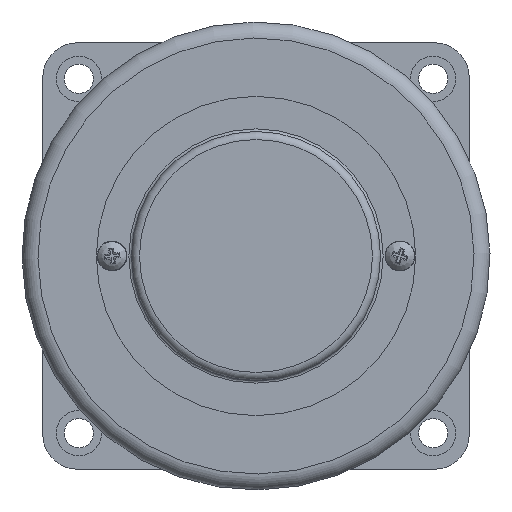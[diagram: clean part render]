
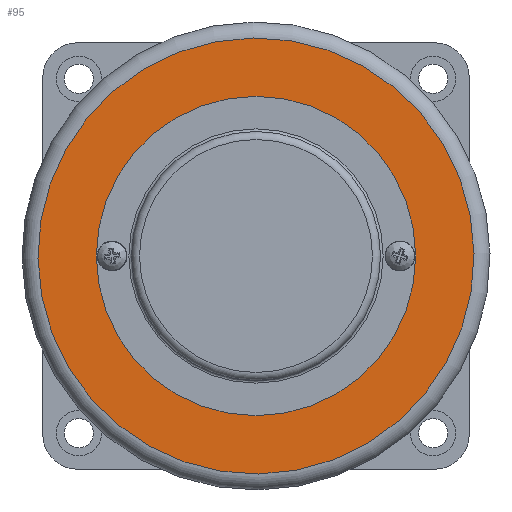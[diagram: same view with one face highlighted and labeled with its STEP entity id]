
A CAD part, left-side view. The second image highlights one B-rep face of the part: STEP entity #95.
In plain terms, the highlighted planar face has unit normal (-1, 0, 0).
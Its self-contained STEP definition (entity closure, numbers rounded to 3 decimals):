
#68=CARTESIAN_POINT('',(-38.5,0.,0.0));
#69=DIRECTION('',(-1.0,0.0,0.0));
#70=DIRECTION('',(0.0,-0.012,-1.));
#71=AXIS2_PLACEMENT_3D('',#68,#69,#70);
#72=PLANE('',#71);
#73=CARTESIAN_POINT('',(-38.5,0.509,40.897));
#74=VERTEX_POINT('',#73);
#75=CARTESIAN_POINT('',(-38.5,0.,0.0));
#76=DIRECTION('',(1.,0.,0.));
#77=DIRECTION('',(0.,-0.012,-1.));
#78=AXIS2_PLACEMENT_3D('',#75,#76,#77);
#79=CIRCLE('',#78,40.9);
#80=EDGE_CURVE('',#74,#74,#79,.T.);
#81=ORIENTED_EDGE('',*,*,#80,.F.);
#82=EDGE_LOOP('',(#81));
#83=FACE_OUTER_BOUND('',#82,.T.);
#84=CARTESIAN_POINT('',(-38.5,-29.95,0.));
#85=VERTEX_POINT('',#84);
#86=CARTESIAN_POINT('',(-38.5,0.,0.));
#87=DIRECTION('',(-1.0,0.0,0.0));
#88=DIRECTION('',(0.0,1.0,0.0));
#89=AXIS2_PLACEMENT_3D('',#86,#87,#88);
#90=CIRCLE('',#89,29.95);
#91=EDGE_CURVE('',#85,#85,#90,.T.);
#92=ORIENTED_EDGE('',*,*,#91,.F.);
#93=EDGE_LOOP('',(#92));
#94=FACE_BOUND('',#93,.T.);
#95=ADVANCED_FACE('',(#83,#94),#72,.T.);
